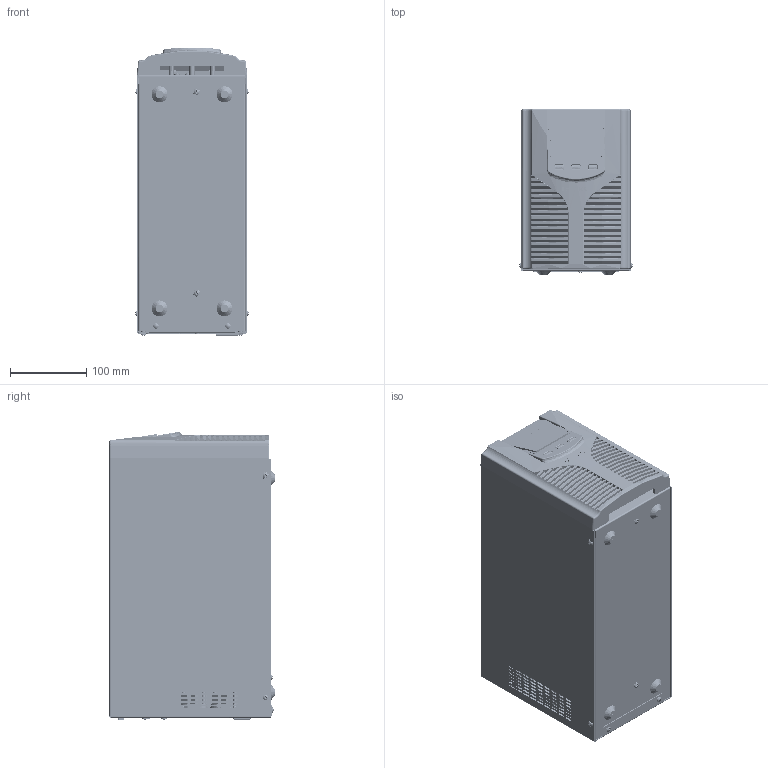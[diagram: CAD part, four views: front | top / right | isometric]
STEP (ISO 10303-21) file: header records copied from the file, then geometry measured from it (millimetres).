
FILE_DESCRIPTION (( 'STEP AP203' ), '1' );
FILE_NAME ('SMALLT1A10S.STEP', '2025-04-28T12:01:12', ( '' ), ( '' ), 'SwSTEP 2.0', 'SolidWorks 2022', '' );
FILE_SCHEMA (( 'CONFIG_CONTROL_DESIGN' ));
Products named in the file (1): SMALLT1A10S
Bounding box: 148.11 x 216 x 377.19 mm (x, y, z)
Surface area: 865774 mm2 (no closed solid volume)
Topology: 0 solids, 78 shells, 6782 faces, 18685 edges, 12136 vertices
Faces by surface type: plane 4519, cylinder 1422, bspline 473, cone 190, torus 130, sphere 48
Entity records: 253814 total; most frequent: CARTESIAN_POINT 92351, ORIENTED_EDGE 37235, DIRECTION 26762, EDGE_CURVE 18669, VERTEX_POINT 12134, LINE 10092, VECTOR 10092, AXIS2_PLACEMENT_3D 8335
